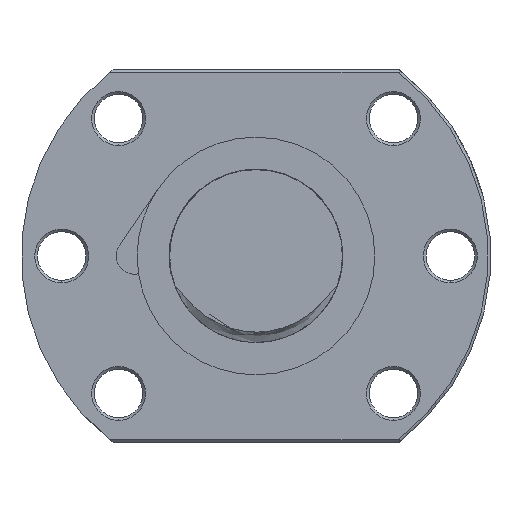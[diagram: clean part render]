
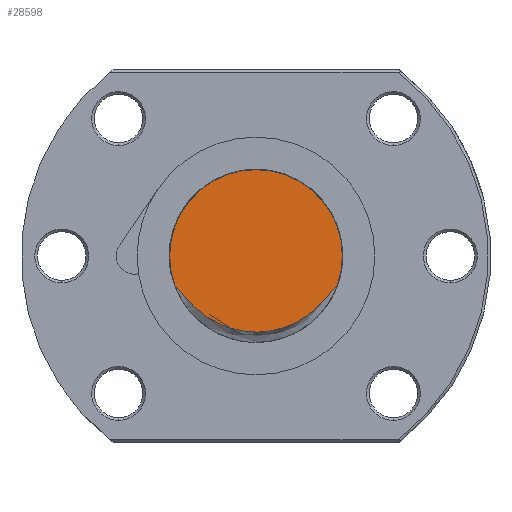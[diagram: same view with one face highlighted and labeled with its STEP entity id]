
A CAD part, left-side view. The second image highlights one B-rep face of the part: STEP entity #28598.
In plain terms, the highlighted planar face has unit normal (-1, 0, 0).
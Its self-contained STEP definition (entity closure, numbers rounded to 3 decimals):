
#9494 = CARTESIAN_POINT ( 'NONE',  ( -231., 15.065, -5.388 ) ) ;
#9495 = DIRECTION ( 'NONE',  ( 0., 1., 0. ) ) ;
#9496 = DIRECTION ( 'NONE',  ( 1., 0., 0. ) ) ;
#9497 = CARTESIAN_POINT ( 'NONE',  ( -231., 0., 0. ) ) ;
#9498 = AXIS2_PLACEMENT_3D ( 'NONE', #9497, #9496, #9495 ) ;
#9499 = CIRCLE ( 'NONE', #9498, 16. ) ;
#9666 = CARTESIAN_POINT ( 'NONE',  ( -231., 0., 16. ) ) ;
#12376 = CARTESIAN_POINT ( 'NONE',  ( -231., -15.065, -5.389 ) ) ;
#12377 = DIRECTION ( 'NONE',  ( 0., 1., 0. ) ) ;
#12378 = DIRECTION ( 'NONE',  ( 1., 0., 0. ) ) ;
#12379 = AXIS2_PLACEMENT_3D ( 'NONE', #12385, #12378, #12377 ) ;
#12380 = CIRCLE ( 'NONE', #12379, 16. ) ;
#12385 = CARTESIAN_POINT ( 'NONE',  ( -231., 0., 0. ) ) ;
#21180 = CARTESIAN_POINT ( 'NONE',  ( -231., -15.065, -5.389 ) ) ;
#21181 = CARTESIAN_POINT ( 'NONE',  ( -231., -14.923, -5.514 ) ) ;
#21182 = CARTESIAN_POINT ( 'NONE',  ( -231., -14.793, -5.652 ) ) ;
#21183 = CARTESIAN_POINT ( 'NONE',  ( -231., -14.539, -5.933 ) ) ;
#21184 = CARTESIAN_POINT ( 'NONE',  ( -231., -14.416, -6.078 ) ) ;
#21185 = CARTESIAN_POINT ( 'NONE',  ( -231., -14.051, -6.514 ) ) ;
#21186 = CARTESIAN_POINT ( 'NONE',  ( -231., -13.812, -6.808 ) ) ;
#21187 = CARTESIAN_POINT ( 'NONE',  ( -231., -13.084, -7.681 ) ) ;
#21188 = CARTESIAN_POINT ( 'NONE',  ( -231., -12.583, -8.253 ) ) ;
#21189 = CARTESIAN_POINT ( 'NONE',  ( -231., -11.527, -9.336 ) ) ;
#21190 = CARTESIAN_POINT ( 'NONE',  ( -231., -10.973, -9.848 ) ) ;
#21191 = CARTESIAN_POINT ( 'NONE',  ( -231., -9.803, -10.802 ) ) ;
#21192 = CARTESIAN_POINT ( 'NONE',  ( -231., -9.183, -11.247 ) ) ;
#21193 = CARTESIAN_POINT ( 'NONE',  ( -231., -7.261, -12.443 ) ) ;
#21194 = CARTESIAN_POINT ( 'NONE',  ( -231., -5.893, -13.062 ) ) ;
#21195 = CARTESIAN_POINT ( 'NONE',  ( -231., -2.974, -13.91 ) ) ;
#21196 = CARTESIAN_POINT ( 'NONE',  ( -231., -1.489, -14.121 ) ) ;
#21197 = CARTESIAN_POINT ( 'NONE',  ( -231., 0.396, -14.118 ) ) ;
#21198 = CARTESIAN_POINT ( 'NONE',  ( -231., 0.777, -14.104 ) ) ;
#21199 = CARTESIAN_POINT ( 'NONE',  ( -231., 1.533, -14.049 ) ) ;
#21200 = CARTESIAN_POINT ( 'NONE',  ( -231., 1.908, -14.008 ) ) ;
#21201 = CARTESIAN_POINT ( 'NONE',  ( -231., 3.024, -13.846 ) ) ;
#21202 = CARTESIAN_POINT ( 'NONE',  ( -231., 3.756, -13.685 ) ) ;
#21203 = CARTESIAN_POINT ( 'NONE',  ( -231., 4.836, -13.368 ) ) ;
#21204 = CARTESIAN_POINT ( 'NONE',  ( -231., 5.194, -13.249 ) ) ;
#21205 = CARTESIAN_POINT ( 'NONE',  ( -231., 5.902, -12.986 ) ) ;
#21206 = CARTESIAN_POINT ( 'NONE',  ( -231., 6.255, -12.841 ) ) ;
#21207 = CARTESIAN_POINT ( 'NONE',  ( -231., 7.287, -12.374 ) ) ;
#21208 = CARTESIAN_POINT ( 'NONE',  ( -231., 7.947, -12.019 ) ) ;
#21209 = CARTESIAN_POINT ( 'NONE',  ( -231., 9.212, -11.227 ) ) ;
#21210 = CARTESIAN_POINT ( 'NONE',  ( -231., 9.818, -10.791 ) ) ;
#21211 = CARTESIAN_POINT ( 'NONE',  ( -231., 10.979, -9.843 ) ) ;
#21212 = CARTESIAN_POINT ( 'NONE',  ( -231., 11.536, -9.327 ) ) ;
#21213 = CARTESIAN_POINT ( 'NONE',  ( -231., 12.592, -8.243 ) ) ;
#21214 = CARTESIAN_POINT ( 'NONE',  ( -231., 13.09, -7.674 ) ) ;
#21215 = CARTESIAN_POINT ( 'NONE',  ( -231., 13.816, -6.803 ) ) ;
#21216 = CARTESIAN_POINT ( 'NONE',  ( -231., 14.054, -6.509 ) ) ;
#21217 = CARTESIAN_POINT ( 'NONE',  ( -231., 14.419, -6.074 ) ) ;
#21218 = CARTESIAN_POINT ( 'NONE',  ( -231., 14.541, -5.93 ) ) ;
#21219 = CARTESIAN_POINT ( 'NONE',  ( -231., 14.794, -5.65 ) ) ;
#21220 = CARTESIAN_POINT ( 'NONE',  ( -231., 14.923, -5.513 ) ) ;
#21221 = CARTESIAN_POINT ( 'NONE',  ( -231., 15.065, -5.388 ) ) ;
#21223 = B_SPLINE_CURVE_WITH_KNOTS ( 'NONE', 3,
 ( #21221, #21220, #21219, #21218, #21217, #21216, #21215, #21214, #21213, #21212, #21211, #21210, #21209, #21208, #21207, #21206, #21205, #21204, #21203, #21202, #21201, #21200, #21199, #21198, #21197, #21196, #21195, #21194, #21193, #21192, #21191, #21190, #21189, #21188, #21187, #21186, #21185, #21184, #21183, #21182, #21181, #21180 ),
 .UNSPECIFIED., .F., .F.,
 ( 4, 2, 2, 2, 2, 2, 2, 2, 2, 2, 2, 2, 2, 2, 2, 2, 2, 2, 2, 2, 4 ),
 ( 0.014, 0.015, 0.015, 0.017, 0.019, 0.021, 0.023, 0.025, 0.027, 0.028, 0.03, 0.031, 0.032, 0.037, 0.041, 0.043, 0.046, 0.048, 0.049, 0.05, 0.05 ),
 .UNSPECIFIED. ) ;
#21225 = DIRECTION ( 'NONE',  ( 0., 0., -1. ) ) ;
#21226 = DIRECTION ( 'NONE',  ( 1., 0., 0. ) ) ;
#21227 = CARTESIAN_POINT ( 'NONE',  ( -231., 0., 0. ) ) ;
#21228 = AXIS2_PLACEMENT_3D ( 'NONE', #21227, #21226, #21225 ) ;
#21229 = PLANE ( 'NONE',  #21228 ) ;
#21234 = FACE_OUTER_BOUND ( 'NONE', #28599, .T. ) ;
#27922 = EDGE_CURVE ( 'NONE', #27923, #27924, #9499, .T. ) ;
#27923 = VERTEX_POINT ( 'NONE', #9494 ) ;
#27924 = VERTEX_POINT ( 'NONE', #9666 ) ;
#28226 = EDGE_CURVE ( 'NONE', #27924, #28227, #12380, .T. ) ;
#28227 = VERTEX_POINT ( 'NONE', #12376 ) ;
#28598 = ADVANCED_FACE ( 'NONE', ( #21234 ), #21229, .F. ) ;
#28599 = EDGE_LOOP ( 'NONE', ( #28600, #28602, #28604 ) ) ;
#28600 = ORIENTED_EDGE ( 'NONE', *, *, #27922, .F. ) ;
#28602 = ORIENTED_EDGE ( 'NONE', *, *, #28603, .T. ) ;
#28603 = EDGE_CURVE ( 'NONE', #27923, #28227, #21223, .T. ) ;
#28604 = ORIENTED_EDGE ( 'NONE', *, *, #28226, .F. ) ;
